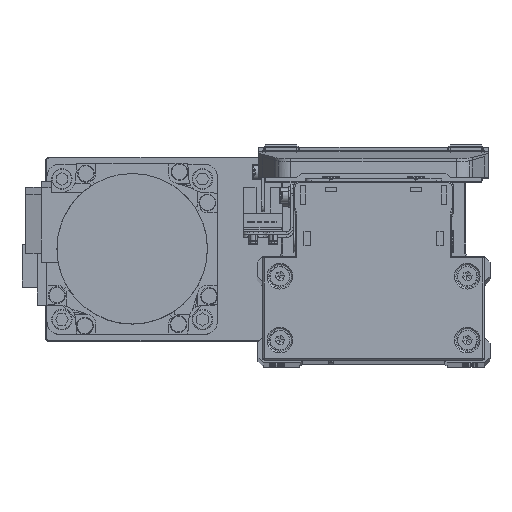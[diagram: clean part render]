
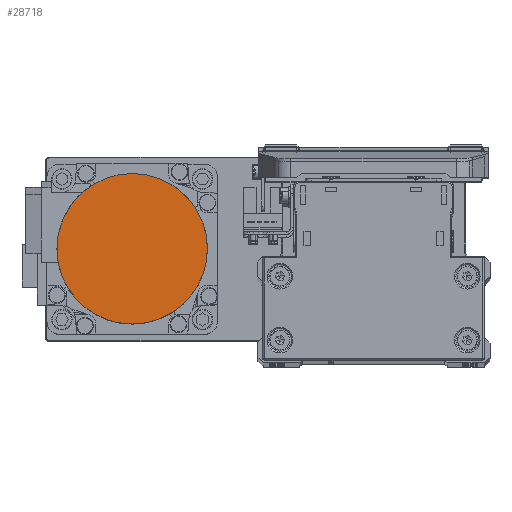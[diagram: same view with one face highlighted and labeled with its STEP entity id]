
A CAD part, top view. The second image highlights one B-rep face of the part: STEP entity #28718.
In plain terms, the highlighted planar face has unit normal (0, 0, 1) as drawn and (0, 0, -1) by its records, which use the part's own axes.
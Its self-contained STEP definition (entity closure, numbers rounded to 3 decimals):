
#83 = CARTESIAN_POINT ( 'NONE',  ( -26.5, 0., -109.7 ) ) ;
#674 = AXIS2_PLACEMENT_3D ( 'NONE', #7569, #20272, #32930 ) ;
#882 = CARTESIAN_POINT ( 'NONE',  ( 26.5, 0., -109.7 ) ) ;
#2642 = CARTESIAN_POINT ( 'NONE',  ( 0., 0., -109.7 ) ) ;
#2944 = AXIS2_PLACEMENT_3D ( 'NONE', #28432, #41122, #12627 ) ;
#6885 = ORIENTED_EDGE ( 'NONE', *, *, #21072, .F. ) ;
#7569 = CARTESIAN_POINT ( 'NONE',  ( 0., 0., -109.7 ) ) ;
#12627 = DIRECTION ( 'NONE',  ( 1., 0., 0. ) ) ;
#13936 = VERTEX_POINT ( 'NONE', #83 ) ;
#14434 = EDGE_CURVE ( 'NONE', #32092, #13936, #20915, .T. ) ;
#15344 = DIRECTION ( 'NONE',  ( 0., 0., 1. ) ) ;
#20272 = DIRECTION ( 'NONE',  ( 0., 0., 1. ) ) ;
#20915 = CIRCLE ( 'NONE', #2944, 26.5 ) ;
#21072 = EDGE_CURVE ( 'NONE', #13936, #32092, #39304, .T. ) ;
#21389 = AXIS2_PLACEMENT_3D ( 'NONE', #2642, #15344, #28039 ) ;
#23393 = FACE_OUTER_BOUND ( 'NONE', #29406, .T. ) ;
#23617 = ORIENTED_EDGE ( 'NONE', *, *, #14434, .F. ) ;
#28039 = DIRECTION ( 'NONE',  ( -1., 0., 0. ) ) ;
#28432 = CARTESIAN_POINT ( 'NONE',  ( 0., 0., -109.7 ) ) ;
#28718 = ADVANCED_FACE ( 'NONE', ( #23393 ), #36064, .F. ) ;
#29406 = EDGE_LOOP ( 'NONE', ( #6885, #23617 ) ) ;
#32092 = VERTEX_POINT ( 'NONE', #882 ) ;
#32930 = DIRECTION ( 'NONE',  ( 1., 0., 0. ) ) ;
#36064 = PLANE ( 'NONE',  #674 ) ;
#39304 = CIRCLE ( 'NONE', #21389, 26.5 ) ;
#41122 = DIRECTION ( 'NONE',  ( 0., 0., 1. ) ) ;
